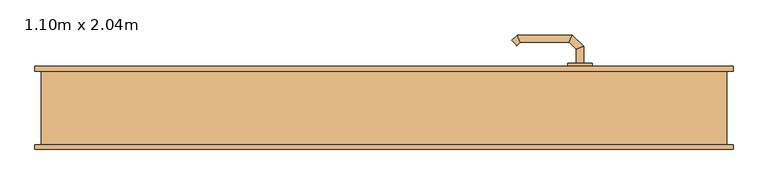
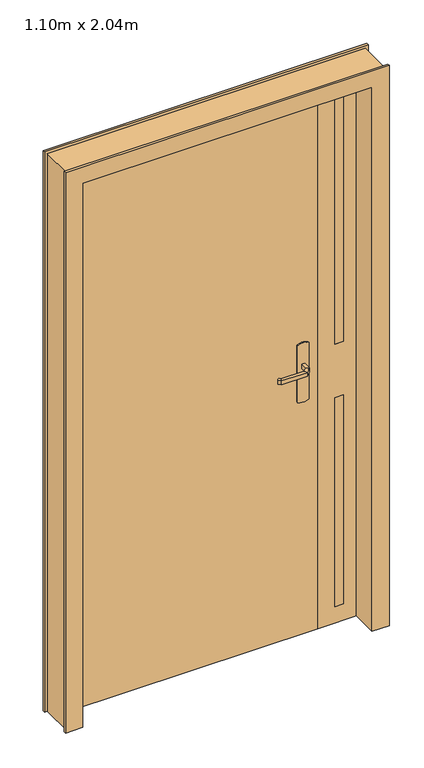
"""IFC4 building model written with IfcOpenShell, lengths in millimetres: door geometry, Tierce  160 : 1.10m x 2.04m."""

from ifc_helpers import new_model, si_unit, point, frame, frame_2d, origin, origin_with_axes, place, context, project, spatial, polyline, circle_curve, ellipse_curve, trimmed, segment, composite_curve, outline, extrude, faceted_brep, source, transform, mapped, element, save
from ifc_brep_helpers import plane_surface, cylinder_surface, advanced_brep


def door_1_10m_x_2_04m_0d4a83de(model_context):
    return source(origin(), model_context, "Body", "SolidModel", [
        advanced_brep(
        [(314.0, 23.0, 993.0), (314.0, 23.0, 1007.0), (326.0, 23.0, 1007.0), (326.0, 23.0, 993.0), (314.0, 0.5147955, 993.0), (314.0, 0.5147955, 1007.0), (326.0, -4.4557673, 1007.0), (326.0, -4.4557673, 993.0), (302.5147186, -10.9704859, 993.0), (302.5147186, -10.9704859, 1007.0), (307.4852814, -22.9704859, 1007.0), (307.4852814, -22.9704859, 993.0), (222.4394977, -10.9704859, 993.0), (222.4394977, -10.9704859, 1007.0), (217.468935, -22.9704859, 1007.0), (217.468935, -22.9704859, 993.0), (217.1257892, -5.6567774, 993.0), (208.6405078, -14.1420588, 993.0), (208.6405078, -14.1420588, 1007.0), (217.1257892, -5.6567774, 1007.0)],
        [
            (0, 1),
            (1, 2, circle_curve(frame((320.0, 23.0, 986.9542278), z_axis=(0.0, 1.0, 0.0), x_axis=(1.0, 0.0, 0.0)), 20.9244589)),
            (2, 3),
            (3, 0, circle_curve(frame((320.0, 23.0, 1013.0457722), z_axis=(0.0, 1.0, 0.0), x_axis=(1.0, 0.0, 0.0)), 20.9244589)),
            (0, 4),
            (4, 5),
            (5, 1),
            (5, 6, ellipse_curve(frame((320.0, -1.9704859, 986.9542278), z_axis=(0.38268343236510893, 0.9238795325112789, 0.0), x_axis=(-0.9238795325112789, 0.3826834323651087, 0.0)), 22.6484711, 20.9244589)),
            (6, 2),
            (6, 7),
            (7, 3),
            (7, 4, ellipse_curve(frame((320.0, -1.9704859, 1013.0457722), z_axis=(0.38268343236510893, 0.9238795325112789, 0.0), x_axis=(-0.9238795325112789, 0.3826834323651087, 0.0)), 22.6484711, 20.9244589)),
            (4, 8),
            (8, 9),
            (9, 5),
            (9, 10, ellipse_curve(frame((305.0, -16.9704859, 986.9542278), z_axis=(0.9238795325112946, 0.38268343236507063, 0.0), x_axis=(-0.3826834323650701, 0.9238795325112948, 0.0)), 22.6484711, 20.9244589)),
            (10, 6),
            (10, 11),
            (11, 7),
            (11, 8, ellipse_curve(frame((305.0, -16.9704859, 1013.0457722), z_axis=(0.9238795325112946, 0.38268343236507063, 0.0), x_axis=(-0.3826834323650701, 0.9238795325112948, 0.0)), 22.6484711, 20.9244589)),
            (8, 12),
            (12, 13),
            (13, 9),
            (13, 14, ellipse_curve(frame((219.9542163, -16.9704859, 986.9542278), z_axis=(0.9238795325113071, -0.38268343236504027, 0.0), x_axis=(0.38268343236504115, 0.9238795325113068, 0.0)), 22.6484711, 20.9244589)),
            (14, 10),
            (14, 15),
            (15, 11),
            (15, 12, ellipse_curve(frame((219.9542163, -16.9704859, 1013.0457722), z_axis=(0.9238795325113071, -0.38268343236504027, 0.0), x_axis=(0.38268343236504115, 0.9238795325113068, 0.0)), 22.6484711, 20.9244589)),
            (16, 17, circle_curve(frame((212.8831485, -9.8994181, 1013.0457722), z_axis=(-0.7071067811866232, 0.7071067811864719, 0.0), x_axis=(-0.7071067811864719, -0.7071067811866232, 0.0)), 20.9244589)),
            (17, 18),
            (18, 19, circle_curve(frame((212.8831485, -9.8994181, 986.9542278), z_axis=(-0.7071067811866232, 0.7071067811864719, 0.0), x_axis=(-0.7071067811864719, -0.7071067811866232, 0.0)), 20.9244589)),
            (19, 16),
            (12, 16),
            (19, 13),
            (18, 14),
            (17, 15),
        ],
        [
            plane_surface(frame((329.2195445, 23.0, 1000.0), z_axis=(0.0, 1.0, 0.0), x_axis=(0.0, 0.0, 1.0))),
            plane_surface(frame((314.0, 23.0, 993.0), z_axis=(-1.0, 0.0, 0.0), x_axis=(0.0, -1.0, 0.0))),
            cylinder_surface(frame((320.0, 23.0, 986.9542278), z_axis=(0.0, 1.0, 0.0), x_axis=(1.0, 0.0, 0.0)), 20.9244589),
            plane_surface(frame((326.0, 23.0, 1007.0), z_axis=(1.0, 0.0, 0.0), x_axis=(0.0, -1.0, 0.0))),
            cylinder_surface(frame((320.0, 23.0, 1013.0457722), z_axis=(0.0, 1.0, 0.0), x_axis=(1.0, 0.0, 0.0)), 20.9244589),
            plane_surface(frame((314.0, 0.5147955, 993.0), z_axis=(-0.707106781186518, 0.707106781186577, 0.0), x_axis=(-0.707106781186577, -0.707106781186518, 0.0))),
            cylinder_surface(frame((320.0, -1.9704859, 986.9542278), z_axis=(0.7071067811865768, 0.7071067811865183, 0.0), x_axis=(0.7071067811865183, -0.7071067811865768, 0.0)), 20.9244589),
            plane_surface(frame((326.0, -4.4557673, 1007.0), z_axis=(0.7071067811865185, -0.7071067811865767, 0.0), x_axis=(-0.7071067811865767, -0.7071067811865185, 0.0))),
            cylinder_surface(frame((320.0, -1.9704859, 1013.0457722), z_axis=(0.7071067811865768, 0.7071067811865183, 0.0), x_axis=(0.7071067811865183, -0.7071067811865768, 0.0)), 20.9244589),
            plane_surface(frame((302.5147186, -10.9704859, 993.0), z_axis=(0.0, 1.0, 0.0), x_axis=(-1.0, 0.0, 0.0))),
            cylinder_surface(frame((305.0, -16.9704859, 986.9542278), z_axis=(1.0, 0.0, 0.0), x_axis=(0.0, -1.0, 0.0)), 20.9244589),
            plane_surface(frame((307.4852814, -22.9704859, 1007.0), z_axis=(0.0, -1.0, 0.0), x_axis=(-1.0, 0.0, 0.0))),
            cylinder_surface(frame((305.0, -16.9704859, 1013.0457722), z_axis=(1.0, 0.0, 0.0), x_axis=(0.0, -1.0, 0.0)), 20.9244589),
            plane_surface(frame((212.8831485, -9.8994181, 990.7804555), z_axis=(-0.7071067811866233, 0.7071067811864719, 0.0), x_axis=(-0.7071067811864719, -0.7071067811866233, 0.0))),
            plane_surface(frame((222.4394977, -10.9704859, 993.0), z_axis=(0.707106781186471, 0.7071067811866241, 0.0), x_axis=(-0.7071067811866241, 0.707106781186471, 0.0))),
            cylinder_surface(frame((219.9542163, -16.9704859, 986.9542278), z_axis=(0.7071067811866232, -0.7071067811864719, 0.0), x_axis=(-0.7071067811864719, -0.7071067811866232, 0.0)), 20.9244589),
            plane_surface(frame((217.468935, -22.9704859, 1007.0), z_axis=(-0.7071067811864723, -0.7071067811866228, 0.0), x_axis=(-0.7071067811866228, 0.7071067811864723, 0.0))),
            cylinder_surface(frame((219.9542163, -16.9704859, 1013.0457722), z_axis=(0.7071067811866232, -0.7071067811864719, 0.0), x_axis=(-0.7071067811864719, -0.7071067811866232, 0.0)), 20.9244589),
        ],
        [
            (0, [[1, 2, 3, 4]]),
            (1, [[-1, 5, 6, 7]]),
            (2, [[-2, -7, 8, 9]]),
            (3, [[-3, -9, 10, 11]]),
            (4, [[-4, -11, 12, -5]]),
            (5, [[-6, 13, 14, 15]]),
            (6, [[-8, -15, 16, 17]]),
            (7, [[-10, -17, 18, 19]]),
            (8, [[-12, -19, 20, -13]]),
            (9, [[-14, 21, 22, 23]]),
            (10, [[-16, -23, 24, 25]]),
            (11, [[-18, -25, 26, 27]]),
            (12, [[-20, -27, 28, -21]]),
            (13, [[29, 30, 31, 32]]),
            (14, [[-22, 33, -32, 34]]),
            (15, [[-24, -34, -31, 35]]),
            (16, [[-26, -35, -30, 36]]),
            (17, [[-28, -36, -29, -33]]),
        ],
    ),
        advanced_brep(
        [(326.0, 73.0, 1007.0), (314.0, 73.0, 1007.0), (314.0, 73.0, 993.0), (326.0, 73.0, 993.0), (326.0, 100.6509507, 1007.0), (314.0, 95.680388, 1007.0), (314.0, 95.680388, 993.0), (326.0, 100.6509507, 993.0), (307.62279, 119.0281607, 1007.0), (302.6522273, 107.0281607, 1007.0), (302.6522273, 107.0281607, 993.0), (307.62279, 119.0281607, 993.0), (217.496078, 119.0281607, 1007.0), (222.4666408, 107.0281607, 1007.0), (222.4666408, 107.0281607, 993.0), (217.496078, 119.0281607, 993.0), (208.6676509, 110.1997336, 1007.0), (208.6676509, 110.1997336, 993.0), (217.1529323, 101.7144522, 993.0), (217.1529323, 101.7144522, 1007.0)],
        [
            (0, 1, circle_curve(frame((320.0, 73.0, 986.9542278), z_axis=(0.0, -1.0, 0.0), x_axis=(-1.0, 0.0, 0.0)), 20.9244589)),
            (1, 2),
            (2, 3, circle_curve(frame((320.0, 73.0, 1013.0457722), z_axis=(0.0, -1.0, 0.0), x_axis=(-1.0, 0.0, 0.0)), 20.9244589)),
            (3, 0),
            (0, 4),
            (4, 5, ellipse_curve(frame((320.0, 98.1656693, 986.9542278), z_axis=(0.3826834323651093, -0.9238795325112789, 0.0), x_axis=(-0.9238795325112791, -0.38268343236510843, 0.0)), 22.6484711, 20.9244589)),
            (5, 1),
            (5, 6),
            (6, 2),
            (6, 7, ellipse_curve(frame((320.0, 98.1656693, 1013.0457722), z_axis=(0.3826834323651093, -0.9238795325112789, 0.0), x_axis=(-0.9238795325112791, -0.38268343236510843, 0.0)), 22.6484711, 20.9244589)),
            (7, 3),
            (7, 4),
            (4, 8),
            (8, 9, ellipse_curve(frame((305.1375086, 113.0281607, 986.9542278), z_axis=(0.9238795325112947, -0.38268343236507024, 0.0), x_axis=(-0.3826834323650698, -0.9238795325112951, 0.0)), 22.6484711, 20.9244589)),
            (9, 5),
            (9, 10),
            (10, 6),
            (10, 11, ellipse_curve(frame((305.1375086, 113.0281607, 1013.0457722), z_axis=(0.9238795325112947, -0.38268343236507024, 0.0), x_axis=(-0.3826834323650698, -0.9238795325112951, 0.0)), 22.6484711, 20.9244589)),
            (11, 7),
            (11, 8),
            (8, 12),
            (12, 13, ellipse_curve(frame((219.9813594, 113.0281607, 986.9542278), z_axis=(0.9238795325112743, 0.3826834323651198, 0.0), x_axis=(0.38268343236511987, -0.9238795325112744, 0.0)), 22.6484711, 20.9244589)),
            (13, 9),
            (13, 14),
            (14, 10),
            (14, 15, ellipse_curve(frame((219.9813594, 113.0281607, 1013.0457722), z_axis=(0.9238795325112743, 0.3826834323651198, 0.0), x_axis=(0.38268343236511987, -0.9238795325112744, 0.0)), 22.6484711, 20.9244589)),
            (15, 11),
            (15, 12),
            (16, 17),
            (17, 18, circle_curve(frame((212.9102916, 105.9570929, 1013.0457722), z_axis=(-0.7071067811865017, -0.7071067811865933, 0.0), x_axis=(0.7071067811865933, -0.7071067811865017, 0.0)), 20.9244589)),
            (18, 19),
            (19, 16, circle_curve(frame((212.9102916, 105.9570929, 986.9542278), z_axis=(-0.7071067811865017, -0.7071067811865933, 0.0), x_axis=(0.7071067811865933, -0.7071067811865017, 0.0)), 20.9244589)),
            (12, 16),
            (19, 13),
            (18, 14),
            (17, 15),
        ],
        [
            plane_surface(frame((329.2195445, 73.0, 1000.0), z_axis=(0.0, -1.0, 0.0), x_axis=(0.0, 0.0, -1.0))),
            cylinder_surface(frame((320.0, 73.0, 986.9542278), z_axis=(0.0, -1.0, 0.0), x_axis=(-1.0, 0.0, 0.0)), 20.9244589),
            plane_surface(frame((314.0, 73.0, 1007.0), z_axis=(-1.0, 0.0, 0.0), x_axis=(0.0, 1.0, 0.0))),
            cylinder_surface(frame((320.0, 73.0, 1013.0457722), z_axis=(0.0, -1.0, 0.0), x_axis=(-1.0, 0.0, 0.0)), 20.9244589),
            plane_surface(frame((326.0, 73.0, 993.0), z_axis=(1.0, 0.0, 0.0), x_axis=(0.0, 1.0, 0.0))),
            cylinder_surface(frame((320.0, 98.1656693, 986.9542278), z_axis=(0.7071067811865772, -0.7071067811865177, 0.0), x_axis=(-0.7071067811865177, -0.7071067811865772, 0.0)), 20.9244589),
            plane_surface(frame((314.0, 95.680388, 1007.0), z_axis=(-0.7071067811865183, -0.7071067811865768, 0.0), x_axis=(-0.7071067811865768, 0.7071067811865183, 0.0))),
            cylinder_surface(frame((320.0, 98.1656693, 1013.0457722), z_axis=(0.7071067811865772, -0.7071067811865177, 0.0), x_axis=(-0.7071067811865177, -0.7071067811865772, 0.0)), 20.9244589),
            plane_surface(frame((326.0, 100.6509507, 993.0), z_axis=(0.707106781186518, 0.707106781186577, 0.0), x_axis=(-0.707106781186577, 0.707106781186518, 0.0))),
            cylinder_surface(frame((305.1375086, 113.0281607, 986.9542278), z_axis=(1.0, 0.0, 0.0), x_axis=(0.0, -1.0, 0.0)), 20.9244589),
            plane_surface(frame((302.6522273, 107.0281607, 1007.0), z_axis=(0.0, -1.0, 0.0), x_axis=(-1.0, 0.0, 0.0))),
            cylinder_surface(frame((305.1375086, 113.0281607, 1013.0457722), z_axis=(1.0, 0.0, 0.0), x_axis=(0.0, -1.0, 0.0)), 20.9244589),
            plane_surface(frame((307.62279, 119.0281607, 993.0), z_axis=(0.0, 1.0, 0.0), x_axis=(-1.0, 0.0, 0.0))),
            plane_surface(frame((212.9102916, 105.9570929, 1009.2195445), z_axis=(-0.7071067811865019, -0.7071067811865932, 0.0), x_axis=(-0.7071067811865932, 0.7071067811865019, 0.0))),
            cylinder_surface(frame((219.9813594, 113.0281607, 986.9542278), z_axis=(0.7071067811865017, 0.7071067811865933, 0.0), x_axis=(0.7071067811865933, -0.7071067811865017, 0.0)), 20.9244589),
            plane_surface(frame((222.4666408, 107.0281607, 1007.0), z_axis=(0.7071067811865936, -0.7071067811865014, 0.0), x_axis=(-0.7071067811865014, -0.7071067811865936, 0.0))),
            cylinder_surface(frame((219.9813594, 113.0281607, 1013.0457722), z_axis=(0.7071067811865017, 0.7071067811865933, 0.0), x_axis=(0.7071067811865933, -0.7071067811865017, 0.0)), 20.9244589),
            plane_surface(frame((217.496078, 119.0281607, 993.0), z_axis=(-0.707106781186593, 0.7071067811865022, 0.0), x_axis=(-0.7071067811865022, -0.707106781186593, 0.0))),
        ],
        [
            (0, [[1, 2, 3, 4]]),
            (1, [[-1, 5, 6, 7]]),
            (2, [[-2, -7, 8, 9]]),
            (3, [[-3, -9, 10, 11]]),
            (4, [[-4, -11, 12, -5]]),
            (5, [[-6, 13, 14, 15]]),
            (6, [[-8, -15, 16, 17]]),
            (7, [[-10, -17, 18, 19]]),
            (8, [[-12, -19, 20, -13]]),
            (9, [[-14, 21, 22, 23]]),
            (10, [[-16, -23, 24, 25]]),
            (11, [[-18, -25, 26, 27]]),
            (12, [[-20, -27, 28, -21]]),
            (13, [[29, 30, 31, 32]]),
            (14, [[-22, 33, -32, 34]]),
            (15, [[-24, -34, -31, 35]]),
            (16, [[-26, -35, -30, 36]]),
            (17, [[-28, -36, -29, -33]]),
        ],
    ),
        extrude(outline(composite_curve([segment(polyline([(1080.0, 300.0), (870.0, 300.0)]), True, "CONTINUOUS"), segment(trimmed(circle_curve(frame_2d((904.6410162, 320.0)), 40.0), [point((870.0, 300.0))], [point((870.0, 340.0))], False, "CARTESIAN"), True, "CONTINUOUS"), segment(polyline([(870.0, 340.0), (1080.0, 340.0)]), True, "CONTINUOUS"), segment(trimmed(circle_curve(frame_2d((1045.3589838, 320.0)), 40.0), [point((1080.0, 340.0))], [point((1080.0, 300.0))], False, "CARTESIAN"), True, "CONTINUOUS")], self_intersect=False)), frame((0.0, 23.0, 0.0), z_axis=(0.0, 1.0, 0.0), x_axis=(0.0, 0.0, 1.0)), (0.0, 0.0, 1.0), 5.0),
        extrude(outline(composite_curve([segment(polyline([(870.0, 340.0), (1080.0, 340.0)]), True, "CONTINUOUS"), segment(trimmed(circle_curve(frame_2d((1045.3589838, 320.0)), 40.0), [point((1080.0, 340.0))], [point((1080.0, 300.0))], False, "CARTESIAN"), True, "CONTINUOUS"), segment(polyline([(1080.0, 300.0), (870.0, 300.0)]), True, "CONTINUOUS"), segment(trimmed(circle_curve(frame_2d((904.6410162, 320.0)), 40.0), [point((870.0, 300.0))], [point((870.0, 340.0))], False, "CARTESIAN"), True, "CONTINUOUS")], self_intersect=False)), frame((0.0, 68.0, 0.0), z_axis=(0.0, 1.0, 0.0), x_axis=(0.0, 0.0, 1.0)), (0.0, 0.0, 1.0), 5.0),
        faceted_brep([(-560.0, 60.0, 0.0), (-570.0, 60.0, 0.0), (-570.0, 68.0, 0.0), (-525.0, 68.0, 0.0), (-525.0, 28.0, 0.0), (-510.0, 28.0, 0.0), (-510.0, -68.0, 0.0), (-570.0, -68.0, 0.0), (-570.0, -60.0, 0.0), (-560.0, -60.0, 0.0), (-560.0, -60.0, 2075.0), (-560.0, 60.0, 2075.0), (-570.0, -60.0, 2085.0), (570.0, -60.0, 2085.0), (570.0, -60.0, 0.0), (560.0, -60.0, 0.0), (560.0, -60.0, 2075.0), (-570.0, -68.0, 2085.0), (-510.0, -68.0, 2025.0), (510.0, -68.0, 2025.0), (510.0, -68.0, 0.0), (570.0, -68.0, 0.0), (570.0, -68.0, 2085.0), (-510.0, 28.0, 2025.0), (-525.0, 28.0, 2040.0), (525.0, 28.0, 2040.0), (525.0, 28.0, 0.0), (510.0, 28.0, 0.0), (510.0, 28.0, 2025.0), (-525.0, 68.0, 2040.0), (-570.0, 68.0, 2085.0), (570.0, 68.0, 2085.0), (570.0, 68.0, 0.0), (525.0, 68.0, 0.0), (525.0, 68.0, 2040.0), (-570.0, 60.0, 2085.0), (560.0, 60.0, 2075.0), (560.0, 60.0, 0.0), (570.0, 60.0, 0.0), (570.0, 60.0, 2085.0)], [[[0, 1, 2, 3, 4, 5, 6, 7, 8, 9]], [[9, 10, 11, 0]], [[8, 12, 13, 14, 15, 16, 10, 9]], [[7, 17, 12, 8]], [[6, 18, 19, 20, 21, 22, 17, 7]], [[5, 23, 18, 6]], [[4, 24, 25, 26, 27, 28, 23, 5]], [[3, 29, 24, 4]], [[2, 30, 31, 32, 33, 34, 29, 3]], [[1, 35, 30, 2]], [[0, 11, 36, 37, 38, 39, 35, 1]], [[16, 15, 37, 36]], [[37, 15, 14, 21, 20, 27, 26, 33, 32, 38]], [[22, 21, 14, 13]], [[28, 27, 20, 19]], [[34, 33, 26, 25]], [[39, 38, 32, 31]], [[10, 16, 36, 11]], [[17, 22, 13, 12]], [[23, 28, 19, 18]], [[29, 34, 25, 24]], [[35, 39, 31, 30]]]),
        extrude(outline(polyline([(465.0, 68.0), (465.0, 28.0), (435.0, 28.0), (435.0, 68.0), (465.0, 68.0)])), frame((0.0, 0.0, 60.0), z_axis=(0.0, 0.0, 1.0), x_axis=(1.0, 0.0, 0.0)), (0.0, 0.0, 1.0), 777.5),
        extrude(outline(polyline([(465.0, 68.0), (465.0, 28.0), (435.0, 28.0), (435.0, 68.0), (465.0, 68.0)])), frame((0.0, 0.0, 1037.5), z_axis=(0.0, 0.0, 1.0), x_axis=(1.0, 0.0, 0.0)), (0.0, 0.0, 1.0), 942.5),
        extrude(outline(polyline([(2040.0, 525.0), (2040.0, 375.0), (0.0, 375.0), (0.0, 525.0), (2040.0, 525.0)]), holes=[polyline([(837.5, 435.0), (837.5, 465.0), (60.0, 465.0), (60.0, 435.0), (837.5, 435.0)]), polyline([(1037.5, 465.0), (1037.5, 435.0), (1980.0, 435.0), (1980.0, 465.0), (1037.5, 465.0)])]), frame((0.0, 28.0, 0.0), z_axis=(0.0, 1.0, 0.0), x_axis=(0.0, 0.0, 1.0)), (0.0, 0.0, 1.0), 40.0),
        extrude(outline(polyline([(375.0, 68.0), (375.0, 28.0), (-525.0, 28.0), (-525.0, 68.0), (375.0, 68.0)])), origin_with_axes(), (0.0, 0.0, 1.0), 2040.0),
    ])


if __name__ == "__main__":
    model = new_model("IFC4")
    model_context = context("Model", 3, world=origin())
    ifc_project = project(units=[si_unit("LENGTHUNIT", "METRE", prefix="MILLI")], contexts=[model_context])
    site = spatial("IfcSite", under=ifc_project)
    building = spatial("IfcBuilding", under=site)
    placement = place(None, origin())
    door_1_10m_x_2_04m_shape = door_1_10m_x_2_04m_0d4a83de(model_context)
    element("IfcDoor", 1, ObjectType="Tierce  160 : 1.10m x 2.04m", at=placement, inside=building, context=model_context, shape_type="MappedRepresentation", body=[
        mapped(door_1_10m_x_2_04m_shape, transform((0.0, 0.0, 0.0), x_axis=(1.0, 0.0, 0.0), y_axis=(0.0, 1.0, 0.0), z_axis=(0.0, 0.0, 1.0))),
    ])
    save(model, "model.ifc")
